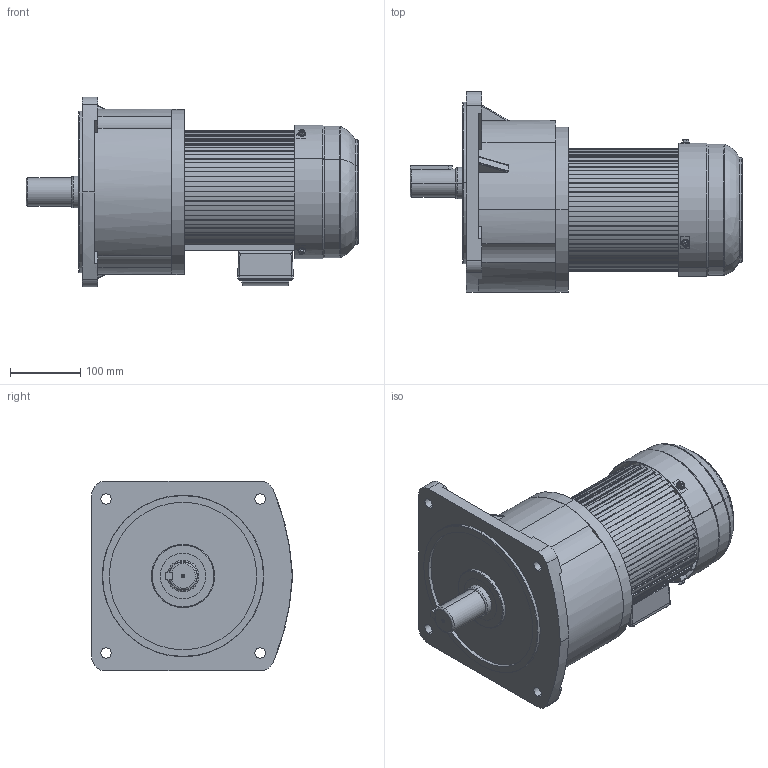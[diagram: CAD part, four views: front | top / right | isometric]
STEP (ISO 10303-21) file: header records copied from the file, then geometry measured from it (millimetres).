
FILE_DESCRIPTION (( 'STEP AP214' ), '1' );
FILE_NAME ('CV40-1500W去字改颜色.STEP', '2024-01-11T05:48:01', ( '微软用户' ), ( '微软中国' ), 'SwSTEP 2.0', 'SolidWorks 2014', '' );
FILE_SCHEMA (( 'AUTOMOTIVE_DESIGN' ));
Length unit declared in the file: millimetre
Products named in the file (9): CV40; CV40-1500W去字改颜色; 奻裔(臏ㄘ; 諉盄碟蹟佪; 菁碟ㄗ臏ㄘ; 瑞珔欶蹟佪; 190瑞珔欶; 160綴裔; 1500W萇儂俋褲
Assembly tree (13 placements, depth 2):
  CV40-1500W去字改颜色
    CV40
    1500W萇儂俋褲
    160綴裔
    190瑞珔欶
    瑞珔欶蹟佪  x3
    菁碟ㄗ臏ㄘ
    奻裔(臏ㄘ
    諉盄碟蹟佪  x4
Bounding box: 472.48 x 285.46 x 270 mm (x, y, z)
Volume: 11669401.6 mm3; surface area: 1429030.3 mm2
Topology: 20 solids, 20 shells, 2089 faces, 5721 edges, 3761 vertices
Faces by surface type: cylinder 965, plane 921, bspline 137, cone 66
Entity records: 88659 total; most frequent: CARTESIAN_POINT 41253, ORIENTED_EDGE 9892, DIRECTION 9317, EDGE_CURVE 4946, VERTEX_POINT 3254, AXIS2_PLACEMENT_3D 3185, LINE 2947, VECTOR 2947
